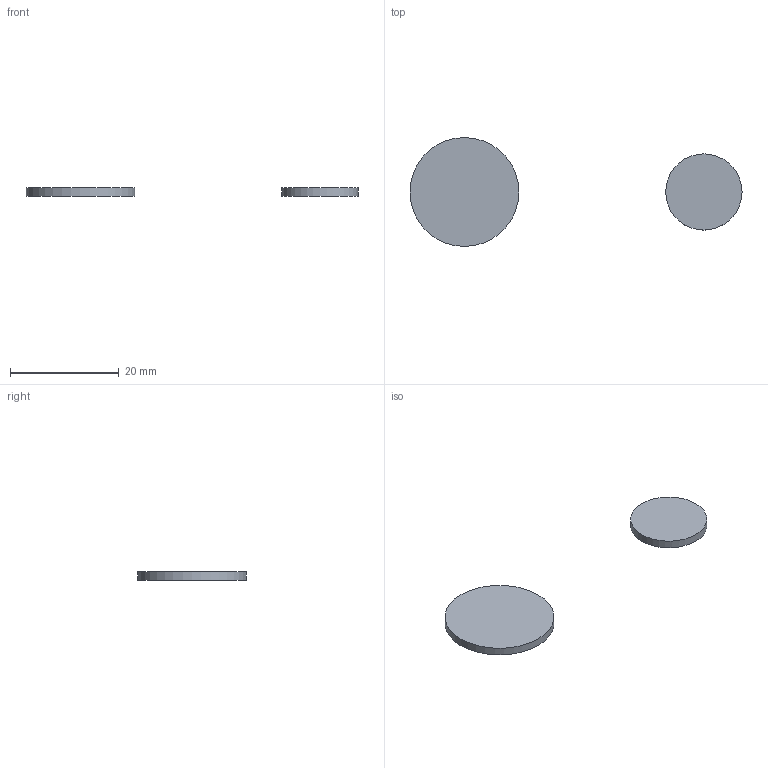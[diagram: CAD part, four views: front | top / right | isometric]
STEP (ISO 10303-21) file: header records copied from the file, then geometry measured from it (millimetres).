
FILE_DESCRIPTION(('Open CASCADE Model'),'2;1');
FILE_NAME('apertures','2026-08-12T02:42:45',('Author'),('Open CASCADE'), 'Open CASCADE STEP processor 7.9','build123d','Unknown');
FILE_SCHEMA(('AUTOMOTIVE_DESIGN { 1 0 10303 214 1 1 1 1 }'));
Length unit declared in the file: millimetre
Products named in the file (3): apertures; COMPOUND
Assembly tree (2 placements, depth 2):
  apertures
    COMPOUND
    COMPOUND
Bounding box: 61 x 20 x 1.5 mm (x, y, z)
Volume: 702.1 mm3; surface area: 1096.4 mm2
Topology: 2 solids, 2 shells, 6 faces, 6 edges, 4 vertices
Faces by surface type: plane 4, cylinder 2
Full cylindrical faces by diameter (mm): 14 x1, 20 x1
Entity records: 236 total; most frequent: DIRECTION 40, CARTESIAN_POINT 31, AXIS2_PLACEMENT_3D 13, ORIENTED_EDGE 12, PCURVE 12, DEFINITIONAL_REPRESENTATION 12, LINE 10, VECTOR 10
